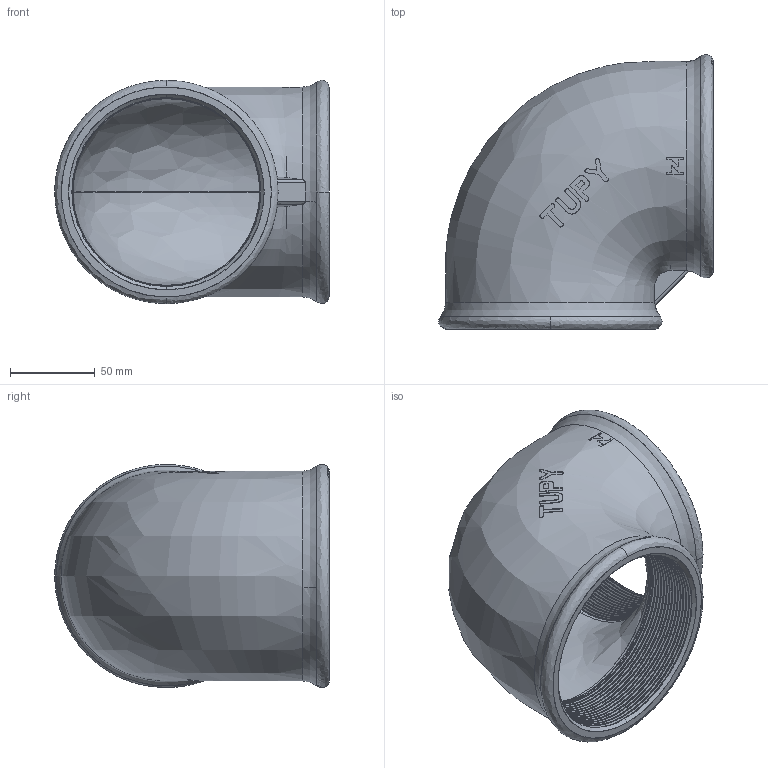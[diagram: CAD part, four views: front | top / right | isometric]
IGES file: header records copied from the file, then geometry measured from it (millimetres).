
Start section: SolidWorks IGES file using analytic representation for surfaces
Global section: file name: C:\Users\Joel Rosa\Desktop\Tubulação\12-07-OK\12-07-014.IGS; native system: SolidWorks 2011; preprocessor: SolidWorks 2011; author: Joel Rosa; date: 121204.004139; units: millimetre
Bounding box: 161.8 x 161.8 x 131.6 mm (x, y, z)
Surface area: 147426.8 mm2 (no closed solid volume)
Topology: 0 solids, 0 shells, 422 faces, 3010 edges, 3010 vertices
Faces by surface type: bspline 290, revolution 132
